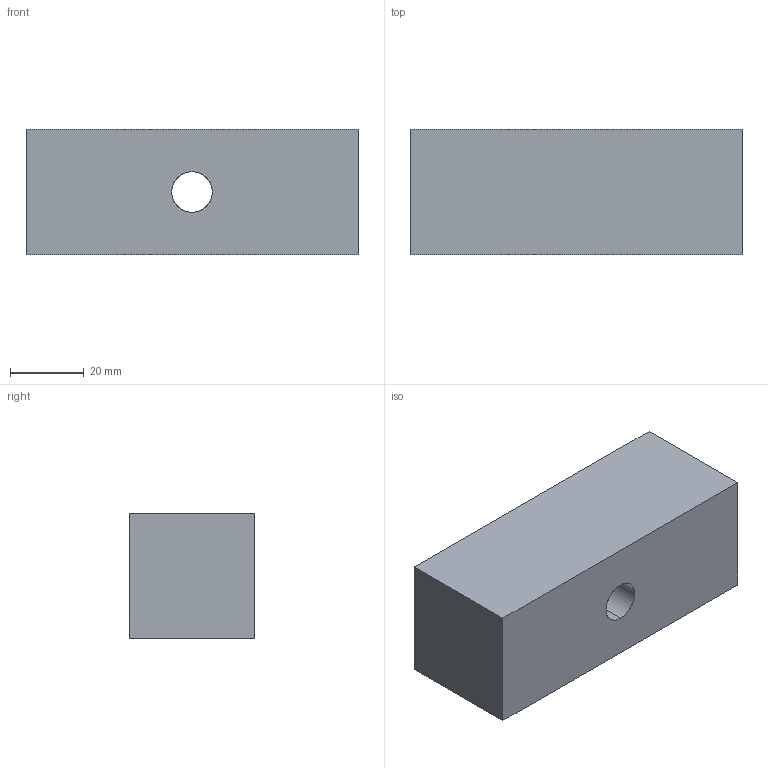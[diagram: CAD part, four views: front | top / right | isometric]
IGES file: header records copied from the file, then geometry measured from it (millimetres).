
Start section: START RECORD GO HERE.
Global section: file name: 760-3030080.igs; native system: DASSAULT SYSTEMES CATIA V5 R20 - www.3ds.com; preprocessor: CATIA Version 5 Release 20 ; author: Utente; organization: NB04-ASUS; date: 20200411.172401; units: millimetre
Bounding box: 90 x 34 x 34 mm (x, y, z)
Surface area: 15876.2 mm2 (no closed solid volume)
Topology: 0 solids, 0 shells, 11 faces, 48 edges, 48 vertices
Faces by surface type: extrusion 7, revolution 4
